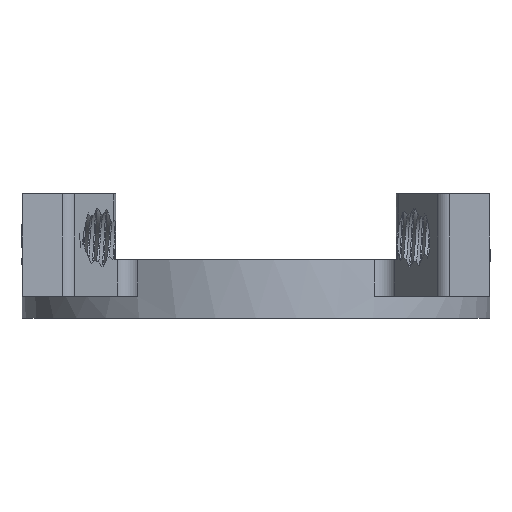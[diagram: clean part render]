
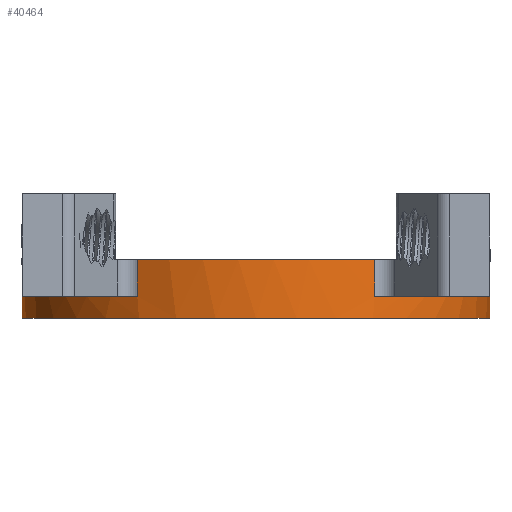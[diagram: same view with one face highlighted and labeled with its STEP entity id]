
A CAD part, front view. The second image highlights one B-rep face of the part: STEP entity #40464.
In plain terms, the highlighted cylindrical face has radius 16 mm (diameter 32 mm), a partial arc.
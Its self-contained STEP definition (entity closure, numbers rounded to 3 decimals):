
#199 = DIRECTION ( 'NONE',  ( 0., 0., 1. ) ) ;
#2140 = ORIENTED_EDGE ( 'NONE', *, *, #56504, .F. ) ;
#2249 = DIRECTION ( 'NONE',  ( 0., 0., -1. ) ) ;
#2913 = CARTESIAN_POINT ( 'NONE',  ( 0., 0., 2.5 ) ) ;
#2933 = DIRECTION ( 'NONE',  ( 0., 0., -1. ) ) ;
#3189 = ORIENTED_EDGE ( 'NONE', *, *, #47552, .T. ) ;
#4338 = CARTESIAN_POINT ( 'NONE',  ( 8.116, -13.789, -1.567 ) ) ;
#6563 = FACE_OUTER_BOUND ( 'NONE', #30887, .T. ) ;
#7653 = VERTEX_POINT ( 'NONE', #33511 ) ;
#7659 = CARTESIAN_POINT ( 'NONE',  ( 0., 0., 4. ) ) ;
#7799 = CARTESIAN_POINT ( 'NONE',  ( 0., 0., 2.5 ) ) ;
#8928 = CARTESIAN_POINT ( 'NONE',  ( -8.116, -13.789, -1.567 ) ) ;
#8988 = CARTESIAN_POINT ( 'NONE',  ( 16., 0., -1.5 ) ) ;
#9799 = CIRCLE ( 'NONE', #15158, 16. ) ;
#10955 = DIRECTION ( 'NONE',  ( 0., 0., 1. ) ) ;
#11187 = DIRECTION ( 'NONE',  ( 1., 0., 0. ) ) ;
#11359 = AXIS2_PLACEMENT_3D ( 'NONE', #15628, #2249, #20770 ) ;
#11724 = VERTEX_POINT ( 'NONE', #8988 ) ;
#11857 = DIRECTION ( 'NONE',  ( 1., 0., 0. ) ) ;
#11951 = ORIENTED_EDGE ( 'NONE', *, *, #14053, .T. ) ;
#12028 = ORIENTED_EDGE ( 'NONE', *, *, #51825, .F. ) ;
#12309 = VECTOR ( 'NONE', #22641, 1000. ) ;
#12540 = CIRCLE ( 'NONE', #18990, 16. ) ;
#13874 = VERTEX_POINT ( 'NONE', #29037 ) ;
#14053 = EDGE_CURVE ( 'NONE', #53200, #51492, #42194, .T. ) ;
#14439 = VERTEX_POINT ( 'NONE', #49201 ) ;
#15064 = AXIS2_PLACEMENT_3D ( 'NONE', #7799, #52391, #30243 ) ;
#15158 = AXIS2_PLACEMENT_3D ( 'NONE', #53108, #40187, #17568 ) ;
#15386 = CIRCLE ( 'NONE', #11359, 16. ) ;
#15622 = CARTESIAN_POINT ( 'NONE',  ( 8.116, -13.789, 2.5 ) ) ;
#15628 = CARTESIAN_POINT ( 'NONE',  ( 0., 0., -1.5 ) ) ;
#16069 = AXIS2_PLACEMENT_3D ( 'NONE', #7659, #2933, #21445 ) ;
#16217 = AXIS2_PLACEMENT_3D ( 'NONE', #43912, #21161, #34717 ) ;
#16845 = LINE ( 'NONE', #44210, #51285 ) ;
#17408 = CARTESIAN_POINT ( 'NONE',  ( 16., 0., 2.5 ) ) ;
#17538 = LINE ( 'NONE', #47145, #18966 ) ;
#17568 = DIRECTION ( 'NONE',  ( -1., 0., 0. ) ) ;
#18966 = VECTOR ( 'NONE', #10955, 1000. ) ;
#18990 = AXIS2_PLACEMENT_3D ( 'NONE', #47848, #57066, #11857 ) ;
#19542 = ORIENTED_EDGE ( 'NONE', *, *, #21048, .T. ) ;
#19792 = EDGE_CURVE ( 'NONE', #7653, #56917, #16845, .T. ) ;
#20276 = LINE ( 'NONE', #43822, #43482 ) ;
#20303 = EDGE_CURVE ( 'NONE', #51492, #33713, #17538, .T. ) ;
#20770 = DIRECTION ( 'NONE',  ( -1., 0., 0. ) ) ;
#21048 = EDGE_CURVE ( 'NONE', #56917, #13874, #9799, .T. ) ;
#21161 = DIRECTION ( 'NONE',  ( 0., 0., -1. ) ) ;
#21445 = DIRECTION ( 'NONE',  ( -1., 0., 0. ) ) ;
#21681 = VECTOR ( 'NONE', #36299, 1000. ) ;
#22017 = EDGE_CURVE ( 'NONE', #40962, #58098, #12540, .T. ) ;
#22284 = CIRCLE ( 'NONE', #46817, 16. ) ;
#22641 = DIRECTION ( 'NONE',  ( 0., 0., -1. ) ) ;
#23899 = ORIENTED_EDGE ( 'NONE', *, *, #19792, .T. ) ;
#24739 = CARTESIAN_POINT ( 'NONE',  ( -16., 0., 2.5 ) ) ;
#25388 = ORIENTED_EDGE ( 'NONE', *, *, #26386, .T. ) ;
#25982 = CARTESIAN_POINT ( 'NONE',  ( -14.17, -7.431, 2.5 ) ) ;
#26034 = VERTEX_POINT ( 'NONE', #17408 ) ;
#26386 = EDGE_CURVE ( 'NONE', #41973, #14439, #20276, .T. ) ;
#28233 = EDGE_CURVE ( 'NONE', #53200, #40962, #46979, .T. ) ;
#28543 = LINE ( 'NONE', #35421, #12309 ) ;
#29037 = CARTESIAN_POINT ( 'NONE',  ( 8.116, -13.789, 0. ) ) ;
#30234 = ORIENTED_EDGE ( 'NONE', *, *, #28233, .F. ) ;
#30243 = DIRECTION ( 'NONE',  ( 1., 0., 0. ) ) ;
#30887 = EDGE_LOOP ( 'NONE', ( #36640, #12028, #23899, #19542, #3189, #48955, #30234, #11951, #31708, #35860, #25388, #2140 ) ) ;
#30894 = EDGE_CURVE ( 'NONE', #41973, #33713, #22284, .T. ) ;
#31708 = ORIENTED_EDGE ( 'NONE', *, *, #20303, .T. ) ;
#33511 = CARTESIAN_POINT ( 'NONE',  ( 14.17, -7.431, 2.5 ) ) ;
#33645 = DIRECTION ( 'NONE',  ( 0., 0., 1. ) ) ;
#33713 = VERTEX_POINT ( 'NONE', #25982 ) ;
#33798 = CARTESIAN_POINT ( 'NONE',  ( -14.17, -7.431, 0. ) ) ;
#34227 = EDGE_CURVE ( 'NONE', #26034, #11724, #28543, .T. ) ;
#34717 = DIRECTION ( 'NONE',  ( -1., 0., 0. ) ) ;
#35421 = CARTESIAN_POINT ( 'NONE',  ( 16., 0., 4. ) ) ;
#35860 = ORIENTED_EDGE ( 'NONE', *, *, #30894, .F. ) ;
#36299 = DIRECTION ( 'NONE',  ( 0., 0., 1. ) ) ;
#36368 = CARTESIAN_POINT ( 'NONE',  ( -8.116, -13.789, 0. ) ) ;
#36640 = ORIENTED_EDGE ( 'NONE', *, *, #34227, .F. ) ;
#37370 = VECTOR ( 'NONE', #199, 1000. ) ;
#39659 = CYLINDRICAL_SURFACE ( 'NONE', #16069, 16. ) ;
#40187 = DIRECTION ( 'NONE',  ( 0., 0., -1. ) ) ;
#40464 = ADVANCED_FACE ( 'NONE', ( #6563 ), #39659, .T. ) ;
#40962 = VERTEX_POINT ( 'NONE', #49312 ) ;
#41973 = VERTEX_POINT ( 'NONE', #24739 ) ;
#42194 = CIRCLE ( 'NONE', #16217, 16. ) ;
#43482 = VECTOR ( 'NONE', #57941, 1000. ) ;
#43641 = LINE ( 'NONE', #4338, #37370 ) ;
#43822 = CARTESIAN_POINT ( 'NONE',  ( -16., 0., 4. ) ) ;
#43912 = CARTESIAN_POINT ( 'NONE',  ( 0., 0., 0. ) ) ;
#44210 = CARTESIAN_POINT ( 'NONE',  ( 14.17, -7.431, 4. ) ) ;
#44599 = DIRECTION ( 'NONE',  ( 0., 0., -1. ) ) ;
#46430 = CIRCLE ( 'NONE', #15064, 16. ) ;
#46817 = AXIS2_PLACEMENT_3D ( 'NONE', #2913, #33645, #11187 ) ;
#46979 = LINE ( 'NONE', #8928, #21681 ) ;
#47145 = CARTESIAN_POINT ( 'NONE',  ( -14.17, -7.431, 4. ) ) ;
#47552 = EDGE_CURVE ( 'NONE', #13874, #58098, #43641, .T. ) ;
#47848 = CARTESIAN_POINT ( 'NONE',  ( 0., 0., 2.5 ) ) ;
#48635 = CARTESIAN_POINT ( 'NONE',  ( 14.17, -7.431, 0. ) ) ;
#48955 = ORIENTED_EDGE ( 'NONE', *, *, #22017, .F. ) ;
#49201 = CARTESIAN_POINT ( 'NONE',  ( -16., 0., -1.5 ) ) ;
#49312 = CARTESIAN_POINT ( 'NONE',  ( -8.116, -13.789, 2.5 ) ) ;
#51285 = VECTOR ( 'NONE', #44599, 1000. ) ;
#51492 = VERTEX_POINT ( 'NONE', #33798 ) ;
#51825 = EDGE_CURVE ( 'NONE', #7653, #26034, #46430, .T. ) ;
#52391 = DIRECTION ( 'NONE',  ( 0., 0., 1. ) ) ;
#53108 = CARTESIAN_POINT ( 'NONE',  ( 0., 0., 0. ) ) ;
#53200 = VERTEX_POINT ( 'NONE', #36368 ) ;
#56504 = EDGE_CURVE ( 'NONE', #11724, #14439, #15386, .T. ) ;
#56917 = VERTEX_POINT ( 'NONE', #48635 ) ;
#57066 = DIRECTION ( 'NONE',  ( 0., 0., 1. ) ) ;
#57941 = DIRECTION ( 'NONE',  ( 0., 0., -1. ) ) ;
#58098 = VERTEX_POINT ( 'NONE', #15622 ) ;
